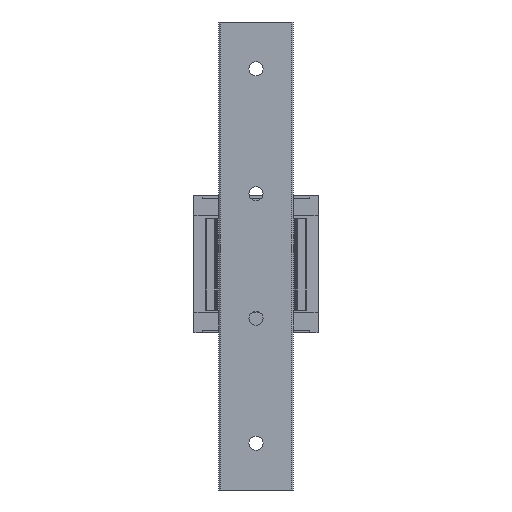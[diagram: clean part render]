
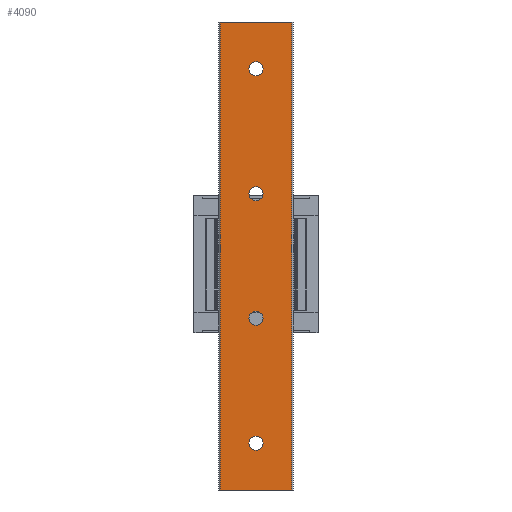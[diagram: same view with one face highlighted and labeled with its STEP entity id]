
A CAD part, front view. The second image highlights one B-rep face of the part: STEP entity #4090.
In plain terms, the highlighted planar face has unit normal (0, -1, 0).
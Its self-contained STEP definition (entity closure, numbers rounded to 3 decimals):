
#56 = VERTEX_POINT ( 'NONE', #10140 ) ;
#72 = CARTESIAN_POINT ( 'NONE',  ( -11.5, 0., 0. ) ) ;
#127 = EDGE_CURVE ( 'NONE', #4642, #8107, #2343, .T. ) ;
#143 = EDGE_CURVE ( 'NONE', #7209, #4464, #3760, .T. ) ;
#198 = CIRCLE ( 'NONE', #1785, 2.25 ) ;
#233 = VERTEX_POINT ( 'NONE', #4186 ) ;
#322 = CARTESIAN_POINT ( 'NONE',  ( 0., 0., 95. ) ) ;
#442 = CARTESIAN_POINT ( 'NONE',  ( 0., 0., 55. ) ) ;
#554 = ORIENTED_EDGE ( 'NONE', *, *, #11258, .T. ) ;
#581 = CARTESIAN_POINT ( 'NONE',  ( -11.5, 0., 0. ) ) ;
#647 = VERTEX_POINT ( 'NONE', #1130 ) ;
#964 = VERTEX_POINT ( 'NONE', #9154 ) ;
#1130 = CARTESIAN_POINT ( 'NONE',  ( 11.5, 0., 150. ) ) ;
#1225 = ORIENTED_EDGE ( 'NONE', *, *, #1782, .T. ) ;
#1261 = AXIS2_PLACEMENT_3D ( 'NONE', #11153, #2243, #9433 ) ;
#1410 = FACE_BOUND ( 'NONE', #1601, .T. ) ;
#1601 = EDGE_LOOP ( 'NONE', ( #4027, #10211 ) ) ;
#1782 = EDGE_CURVE ( 'NONE', #11422, #11083, #4169, .T. ) ;
#1785 = AXIS2_PLACEMENT_3D ( 'NONE', #8087, #8986, #3629 ) ;
#1834 = CARTESIAN_POINT ( 'NONE',  ( 0., 0., 137.25 ) ) ;
#1869 = ORIENTED_EDGE ( 'NONE', *, *, #3197, .F. ) ;
#2091 = CARTESIAN_POINT ( 'NONE',  ( 0., 0., 57.25 ) ) ;
#2243 = DIRECTION ( 'NONE',  ( 0., 1., 0. ) ) ;
#2251 = EDGE_LOOP ( 'NONE', ( #11150, #2948 ) ) ;
#2284 = CARTESIAN_POINT ( 'NONE',  ( 0., 0., 132.75 ) ) ;
#2343 = CIRCLE ( 'NONE', #5736, 2.25 ) ;
#2344 = ORIENTED_EDGE ( 'NONE', *, *, #2428, .T. ) ;
#2356 = CARTESIAN_POINT ( 'NONE',  ( 0., 0., 15. ) ) ;
#2428 = EDGE_CURVE ( 'NONE', #4464, #7209, #198, .T. ) ;
#2489 = CIRCLE ( 'NONE', #3045, 2.25 ) ;
#2575 = EDGE_LOOP ( 'NONE', ( #1225, #4987, #1869, #554 ) ) ;
#2948 = ORIENTED_EDGE ( 'NONE', *, *, #9264, .T. ) ;
#3007 = VECTOR ( 'NONE', #6118, 1000. ) ;
#3045 = AXIS2_PLACEMENT_3D ( 'NONE', #3394, #9634, #11391 ) ;
#3134 = DIRECTION ( 'NONE',  ( 0., 1., 0. ) ) ;
#3137 = PLANE ( 'NONE',  #1261 ) ;
#3197 = EDGE_CURVE ( 'NONE', #964, #647, #8597, .T. ) ;
#3227 = FACE_OUTER_BOUND ( 'NONE', #2575, .T. ) ;
#3394 = CARTESIAN_POINT ( 'NONE',  ( 0., 0., 55. ) ) ;
#3396 = CIRCLE ( 'NONE', #8423, 2.25 ) ;
#3523 = CIRCLE ( 'NONE', #5678, 2.25 ) ;
#3629 = DIRECTION ( 'NONE',  ( 0., 0., 1. ) ) ;
#3661 = CARTESIAN_POINT ( 'NONE',  ( 0., 0., 15. ) ) ;
#3760 = CIRCLE ( 'NONE', #10515, 2.25 ) ;
#3815 = FACE_BOUND ( 'NONE', #4350, .T. ) ;
#3848 = VECTOR ( 'NONE', #10742, 1000. ) ;
#3903 = VECTOR ( 'NONE', #7389, 1000. ) ;
#4022 = DIRECTION ( 'NONE',  ( 0., 0., -1. ) ) ;
#4027 = ORIENTED_EDGE ( 'NONE', *, *, #6130, .T. ) ;
#4090 = ADVANCED_FACE ( 'NONE', ( #1410, #5363, #3227, #3815, #6202 ), #3137, .F. ) ;
#4169 = LINE ( 'NONE', #581, #3007 ) ;
#4186 = CARTESIAN_POINT ( 'NONE',  ( 0., 0., 17.25 ) ) ;
#4350 = EDGE_LOOP ( 'NONE', ( #2344, #10693 ) ) ;
#4449 = VERTEX_POINT ( 'NONE', #1834 ) ;
#4464 = VERTEX_POINT ( 'NONE', #10870 ) ;
#4552 = CIRCLE ( 'NONE', #5281, 2.25 ) ;
#4642 = VERTEX_POINT ( 'NONE', #6525 ) ;
#4663 = CARTESIAN_POINT ( 'NONE',  ( 11.5, 0., 0. ) ) ;
#4987 = ORIENTED_EDGE ( 'NONE', *, *, #11586, .F. ) ;
#5281 = AXIS2_PLACEMENT_3D ( 'NONE', #6766, #11189, #11306 ) ;
#5356 = AXIS2_PLACEMENT_3D ( 'NONE', #10996, #8363, #9279 ) ;
#5363 = FACE_BOUND ( 'NONE', #2251, .T. ) ;
#5678 = AXIS2_PLACEMENT_3D ( 'NONE', #3661, #10780, #10744 ) ;
#5736 = AXIS2_PLACEMENT_3D ( 'NONE', #442, #3134, #8397 ) ;
#5791 = DIRECTION ( 'NONE',  ( 0., 1., 0. ) ) ;
#6118 = DIRECTION ( 'NONE',  ( 1., 0., 0. ) ) ;
#6130 = EDGE_CURVE ( 'NONE', #8107, #4642, #2489, .T. ) ;
#6202 = FACE_BOUND ( 'NONE', #7996, .T. ) ;
#6525 = CARTESIAN_POINT ( 'NONE',  ( 0., 0., 52.75 ) ) ;
#6609 = EDGE_CURVE ( 'NONE', #8255, #4449, #6890, .T. ) ;
#6766 = CARTESIAN_POINT ( 'NONE',  ( 0., 0., 135. ) ) ;
#6876 = DIRECTION ( 'NONE',  ( 0., 1., 0. ) ) ;
#6890 = CIRCLE ( 'NONE', #5356, 2.25 ) ;
#6960 = LINE ( 'NONE', #7464, #3903 ) ;
#7209 = VERTEX_POINT ( 'NONE', #9235 ) ;
#7358 = EDGE_CURVE ( 'NONE', #4449, #8255, #4552, .T. ) ;
#7389 = DIRECTION ( 'NONE',  ( 0., 0., -1. ) ) ;
#7464 = CARTESIAN_POINT ( 'NONE',  ( -11.5, 0., 150. ) ) ;
#7656 = DIRECTION ( 'NONE',  ( 0., 0., 1. ) ) ;
#7996 = EDGE_LOOP ( 'NONE', ( #9500, #10030 ) ) ;
#8087 = CARTESIAN_POINT ( 'NONE',  ( 0., 0., 95. ) ) ;
#8107 = VERTEX_POINT ( 'NONE', #2091 ) ;
#8225 = EDGE_CURVE ( 'NONE', #233, #56, #3396, .T. ) ;
#8255 = VERTEX_POINT ( 'NONE', #2284 ) ;
#8363 = DIRECTION ( 'NONE',  ( 0., 1., 0. ) ) ;
#8397 = DIRECTION ( 'NONE',  ( 0., 0., 1. ) ) ;
#8423 = AXIS2_PLACEMENT_3D ( 'NONE', #2356, #6876, #10439 ) ;
#8597 = LINE ( 'NONE', #8974, #3848 ) ;
#8974 = CARTESIAN_POINT ( 'NONE',  ( -11.5, 0., 150. ) ) ;
#8986 = DIRECTION ( 'NONE',  ( 0., 1., 0. ) ) ;
#9154 = CARTESIAN_POINT ( 'NONE',  ( -11.5, 0., 150. ) ) ;
#9235 = CARTESIAN_POINT ( 'NONE',  ( 0., 0., 92.75 ) ) ;
#9264 = EDGE_CURVE ( 'NONE', #56, #233, #3523, .T. ) ;
#9279 = DIRECTION ( 'NONE',  ( 0., 0., 1. ) ) ;
#9351 = LINE ( 'NONE', #11321, #9492 ) ;
#9433 = DIRECTION ( 'NONE',  ( -1., 0., 0. ) ) ;
#9492 = VECTOR ( 'NONE', #4022, 1000. ) ;
#9500 = ORIENTED_EDGE ( 'NONE', *, *, #7358, .T. ) ;
#9634 = DIRECTION ( 'NONE',  ( 0., 1., 0. ) ) ;
#10030 = ORIENTED_EDGE ( 'NONE', *, *, #6609, .T. ) ;
#10140 = CARTESIAN_POINT ( 'NONE',  ( 0., 0., 12.75 ) ) ;
#10211 = ORIENTED_EDGE ( 'NONE', *, *, #127, .T. ) ;
#10439 = DIRECTION ( 'NONE',  ( 0., 0., 1. ) ) ;
#10515 = AXIS2_PLACEMENT_3D ( 'NONE', #322, #5791, #7656 ) ;
#10693 = ORIENTED_EDGE ( 'NONE', *, *, #143, .T. ) ;
#10742 = DIRECTION ( 'NONE',  ( 1., 0., 0. ) ) ;
#10744 = DIRECTION ( 'NONE',  ( 0., 0., 1. ) ) ;
#10780 = DIRECTION ( 'NONE',  ( 0., 1., 0. ) ) ;
#10870 = CARTESIAN_POINT ( 'NONE',  ( 0., 0., 97.25 ) ) ;
#10996 = CARTESIAN_POINT ( 'NONE',  ( 0., 0., 135. ) ) ;
#11083 = VERTEX_POINT ( 'NONE', #4663 ) ;
#11150 = ORIENTED_EDGE ( 'NONE', *, *, #8225, .T. ) ;
#11153 = CARTESIAN_POINT ( 'NONE',  ( -11.5, 0., 150. ) ) ;
#11189 = DIRECTION ( 'NONE',  ( 0., 1., 0. ) ) ;
#11258 = EDGE_CURVE ( 'NONE', #964, #11422, #6960, .T. ) ;
#11306 = DIRECTION ( 'NONE',  ( 0., 0., 1. ) ) ;
#11321 = CARTESIAN_POINT ( 'NONE',  ( 11.5, 0., 150. ) ) ;
#11391 = DIRECTION ( 'NONE',  ( 0., 0., 1. ) ) ;
#11422 = VERTEX_POINT ( 'NONE', #72 ) ;
#11586 = EDGE_CURVE ( 'NONE', #647, #11083, #9351, .T. ) ;
